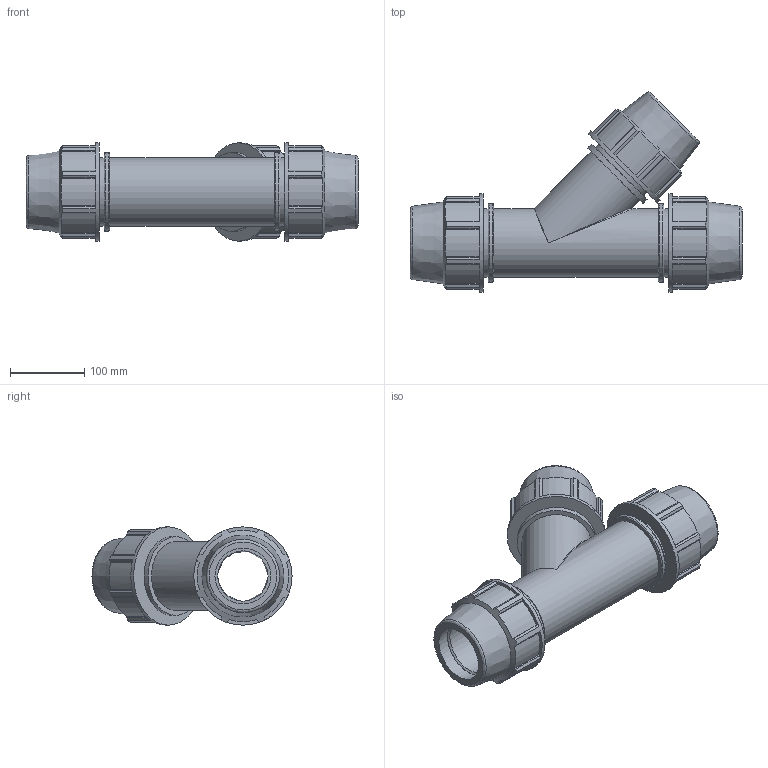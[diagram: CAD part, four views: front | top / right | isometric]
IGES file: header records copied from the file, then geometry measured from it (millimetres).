
Global section: file name: 876400075_186400075.ipt; native system: Autodesk Inventor 2015; preprocessor: unknown; author: KIM; date: 20170608.042748; units: millimetre
Bounding box: 446 x 268.78 x 132 mm (x, y, z)
Volume: 2724354.3 mm3; surface area: 400885.9 mm2
Topology: 1 solids, 1 shells, 199 faces, 566 edges, 380 vertices
Faces by surface type: plane 138, cylinder 36, revolution 17, cone 6, bspline 2
Full cylindrical faces by diameter (mm): 92.4 x5, 105.6 x3, 132 x3
